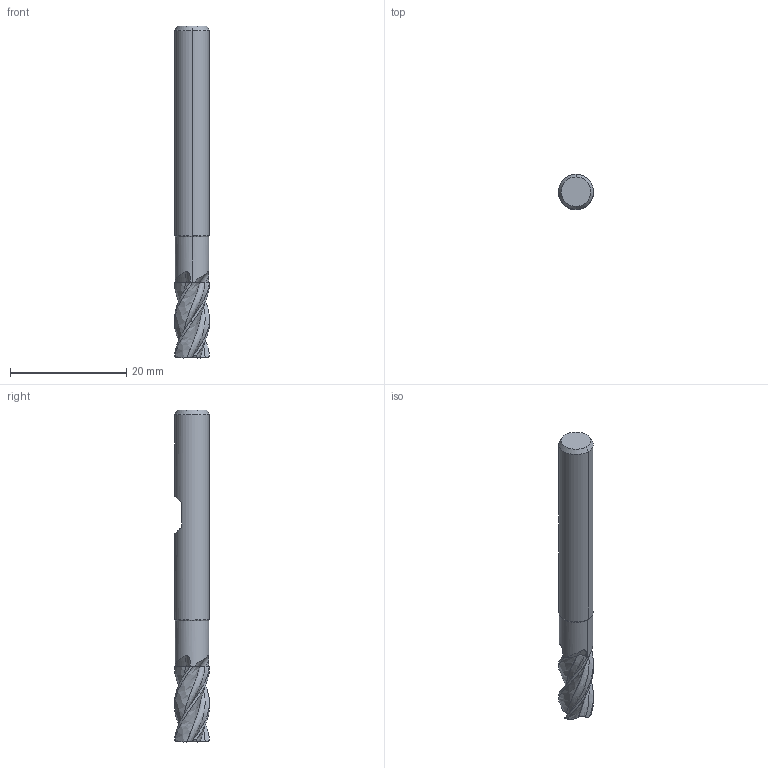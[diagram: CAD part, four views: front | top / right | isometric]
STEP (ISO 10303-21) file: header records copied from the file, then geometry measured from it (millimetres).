
FILE_DESCRIPTION(('no description'),'unknown implementation level');
FILE_NAME('solidNRDlqbKvIS9CCxXiEGSmtJGutgI_1.STP',' ',('CIMSOURCE GmbH'),('CADClick - KiM GmbH - www.kimweb.de'),'unknown preprocess','ACIS','unknown authorization');
FILE_SCHEMA(('automotive_design'));
Length unit declared in the file: millimetre
Products named in the file (2): NOCUT; CUT
Bounding box: 6 x 6 x 57 mm (x, y, z)
Volume: 1394.9 mm3; surface area: 1394.6 mm2
Topology: 2 solids, 2 shells, 125 faces, 356 edges, 234 vertices
Faces by surface type: bspline 48, plane 23, cone 20, cylinder 16, revolution 12, torus 6
Entity records: 19620 total; most frequent: CARTESIAN_POINT 12835, STYLED_ITEM 717, PRESENTATION_STYLE_ASSIGNMENT 717, COLOUR_RGB 717, ORIENTED_EDGE 712, DIRECTION 390, EDGE_CURVE 356, CURVE_STYLE 356
